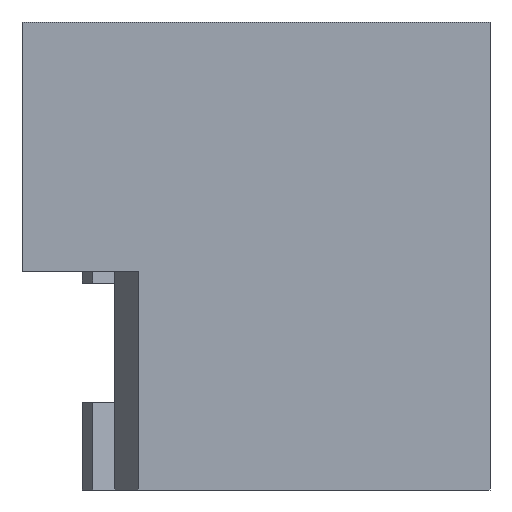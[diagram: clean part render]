
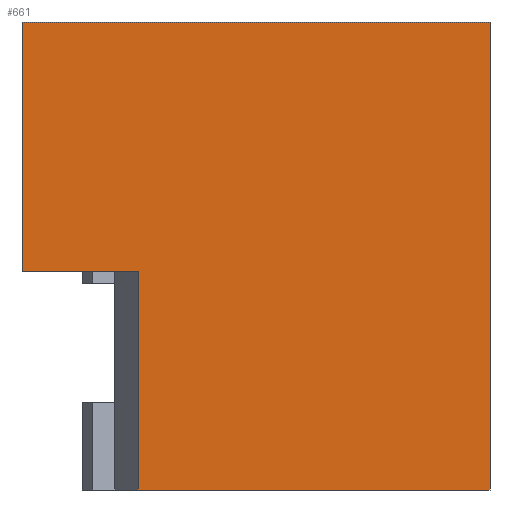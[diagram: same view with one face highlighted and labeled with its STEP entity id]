
A CAD part, front view. The second image highlights one B-rep face of the part: STEP entity #661.
In plain terms, the highlighted planar face has unit normal (0, -1, 0).
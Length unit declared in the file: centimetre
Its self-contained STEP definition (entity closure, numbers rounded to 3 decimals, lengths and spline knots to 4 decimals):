
#34 = DIRECTION ( 'NONE',  ( 0., 0., -1. ) ) ;
#42 = EDGE_CURVE ( 'NONE', #502, #693, #827, .T. ) ;
#73 = CARTESIAN_POINT ( 'NONE',  ( 0., 0., 467.3207 ) ) ;
#78 = CARTESIAN_POINT ( 'NONE',  ( 248.5739, 0., 0. ) ) ;
#98 = CARTESIAN_POINT ( 'NONE',  ( 1000., 0., 1000. ) ) ;
#109 = VECTOR ( 'NONE', #34, 100. ) ;
#144 = ORIENTED_EDGE ( 'NONE', *, *, #1057, .F. ) ;
#154 = CARTESIAN_POINT ( 'NONE',  ( 248.5739, 0., 467.3207 ) ) ;
#179 = DIRECTION ( 'NONE',  ( 1., 0., 0. ) ) ;
#226 = VERTEX_POINT ( 'NONE', #98 ) ;
#242 = CARTESIAN_POINT ( 'NONE',  ( 248.5739, 0., 467.3207 ) ) ;
#260 = CARTESIAN_POINT ( 'NONE',  ( 0., 0., 1000. ) ) ;
#285 = FACE_OUTER_BOUND ( 'NONE', #766, .T. ) ;
#318 = CARTESIAN_POINT ( 'NONE',  ( 0., 0., 0. ) ) ;
#327 = DIRECTION ( 'NONE',  ( -1., 0., 0. ) ) ;
#331 = VECTOR ( 'NONE', #179, 100. ) ;
#345 = ORIENTED_EDGE ( 'NONE', *, *, #42, .T. ) ;
#363 = ORIENTED_EDGE ( 'NONE', *, *, #677, .T. ) ;
#400 = VERTEX_POINT ( 'NONE', #260 ) ;
#429 = DIRECTION ( 'NONE',  ( 1., 0., 0. ) ) ;
#502 = VERTEX_POINT ( 'NONE', #78 ) ;
#529 = VERTEX_POINT ( 'NONE', #568 ) ;
#552 = VECTOR ( 'NONE', #327, 100. ) ;
#561 = LINE ( 'NONE', #154, #1035 ) ;
#568 = CARTESIAN_POINT ( 'NONE',  ( 248.5739, 0., 467.3207 ) ) ;
#580 = ORIENTED_EDGE ( 'NONE', *, *, #1140, .F. ) ;
#583 = CARTESIAN_POINT ( 'NONE',  ( 1000., 0., 0. ) ) ;
#630 = AXIS2_PLACEMENT_3D ( 'NONE', #699, #981, #1056 ) ;
#661 = ADVANCED_FACE ( 'NONE', ( #285 ), #669, .F. ) ;
#669 = PLANE ( 'NONE',  #630 ) ;
#677 = EDGE_CURVE ( 'NONE', #400, #954, #1074, .T. ) ;
#693 = VERTEX_POINT ( 'NONE', #583 ) ;
#695 = VECTOR ( 'NONE', #429, 100. ) ;
#699 = CARTESIAN_POINT ( 'NONE',  ( 0., 0., 1000. ) ) ;
#722 = EDGE_CURVE ( 'NONE', #529, #954, #821, .T. ) ;
#766 = EDGE_LOOP ( 'NONE', ( #1051, #922, #345, #580, #144, #363 ) ) ;
#780 = VECTOR ( 'NONE', #887, 100. ) ;
#787 = LINE ( 'NONE', #1251, #331 ) ;
#821 = LINE ( 'NONE', #242, #552 ) ;
#827 = LINE ( 'NONE', #318, #695 ) ;
#851 = DIRECTION ( 'NONE',  ( 0., 0., -1. ) ) ;
#887 = DIRECTION ( 'NONE',  ( 0., 0., -1. ) ) ;
#900 = LINE ( 'NONE', #1009, #109 ) ;
#916 = EDGE_CURVE ( 'NONE', #529, #502, #561, .T. ) ;
#922 = ORIENTED_EDGE ( 'NONE', *, *, #916, .T. ) ;
#954 = VERTEX_POINT ( 'NONE', #73 ) ;
#981 = DIRECTION ( 'NONE',  ( 0., 1., 0. ) ) ;
#1009 = CARTESIAN_POINT ( 'NONE',  ( 1000., 0., 1000. ) ) ;
#1035 = VECTOR ( 'NONE', #851, 100. ) ;
#1051 = ORIENTED_EDGE ( 'NONE', *, *, #722, .F. ) ;
#1056 = DIRECTION ( 'NONE',  ( 0., 0., 1. ) ) ;
#1057 = EDGE_CURVE ( 'NONE', #400, #226, #787, .T. ) ;
#1069 = CARTESIAN_POINT ( 'NONE',  ( 0., 0., 1000. ) ) ;
#1074 = LINE ( 'NONE', #1069, #780 ) ;
#1140 = EDGE_CURVE ( 'NONE', #226, #693, #900, .T. ) ;
#1251 = CARTESIAN_POINT ( 'NONE',  ( 0., 0., 1000. ) ) ;
